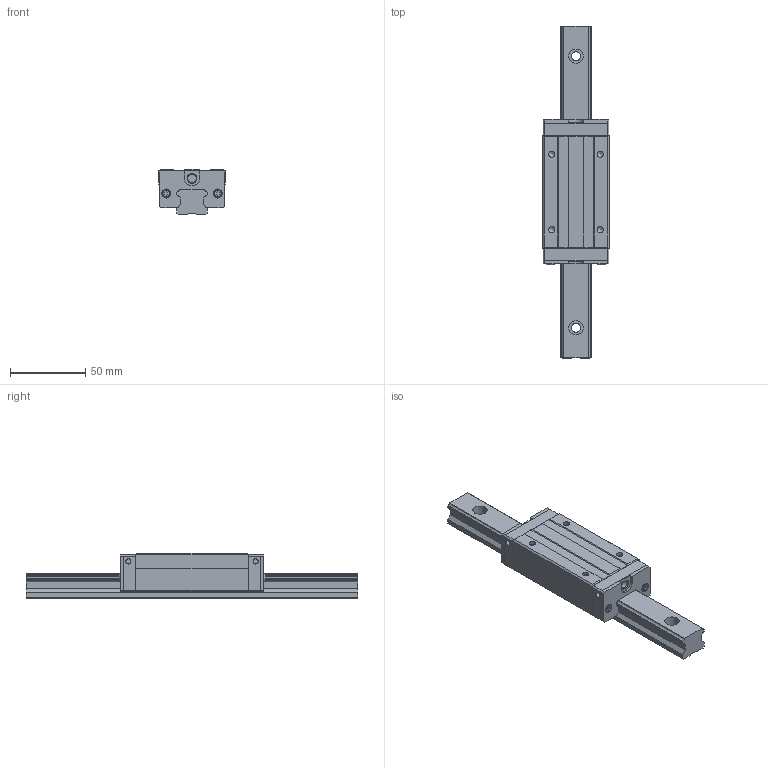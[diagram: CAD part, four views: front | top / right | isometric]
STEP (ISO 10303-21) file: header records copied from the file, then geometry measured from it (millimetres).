
FILE_DESCRIPTION( ( 'Unknown' ), '1' );
FILE_NAME( '//Sbc-server/力前/档搁包府/力前档搁/力前档(Rev.2007)/脚力前 俺惯 橇肺璃飘/2008.09.01 脚力前 SBI 15-25 俺惯 [TFT]/墨呕肺弊/3D 墨呕肺弊/SBI 20/STP/SBI 20 SLL.stp', 'Unknown', ( 'Unknown' ), ( 'Unknown' ), 'XStep 1.0', 'Unknown', ' ' );
FILE_SCHEMA( ( 'automotive_design' ) );
Length unit declared in the file: millimetre
Products named in the file (7): Assem1; 20-RAIL; SBI 20 SLL
Bounding box: 44 x 220 x 30 mm (x, y, z)
Volume: 272184.9 mm3; surface area: 86803.9 mm2
Topology: 12 solids, 12 shells, 714 faces, 1860 edges, 1232 vertices
Faces by surface type: plane 534, cylinder 128, extrusion 36, cone 8, torus 8
Full cylindrical faces by diameter (mm): 3.5 x24, 4.134 x16, 5.5 x8, 5.7 x4, 6 x16, 6.5 x4, 9.5 x8
Entity records: 11509 total; most frequent: CARTESIAN_POINT 2731, ORIENTED_EDGE 1728, DIRECTION 1590, EDGE_CURVE 864, VECTOR 634, LINE 616, VERTEX_POINT 604, AXIS2_PLACEMENT_3D 478
